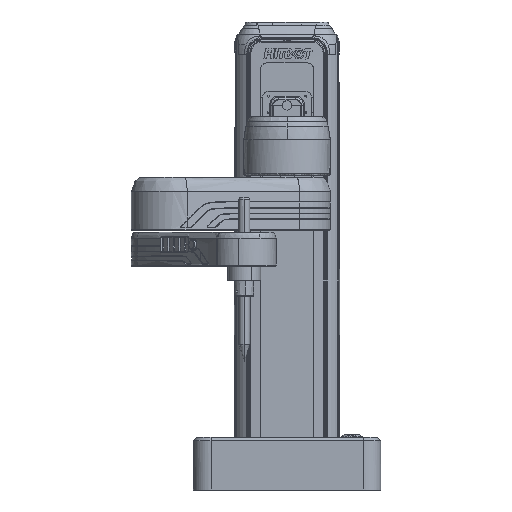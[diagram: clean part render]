
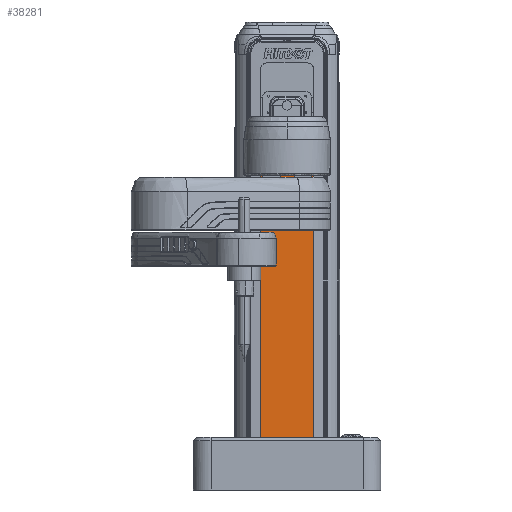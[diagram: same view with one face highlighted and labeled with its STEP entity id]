
A CAD part, left-side view. The second image highlights one B-rep face of the part: STEP entity #38281.
In plain terms, the highlighted free-form (B-spline) face has degree [1, 1] with [2, 2] control points.
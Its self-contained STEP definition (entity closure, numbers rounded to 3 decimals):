
#1864=B_SPLINE_SURFACE_WITH_KNOTS('',1,1,((#333567,#333568),(#333569,#333570)),
 .UNSPECIFIED.,.F.,.F.,.F.,(2,2),(2,2),(-5.018,55.018),(-26.118,
287.118),.UNSPECIFIED.);
#38281=ADVANCED_FACE('',(#41387),#1864,.T.);
#41387=FACE_OUTER_BOUND('',#44790,.T.);
#44790=EDGE_LOOP('',(#57188,#57189,#57190,#57191));
#57188=ORIENTED_EDGE('',*,*,#134262,.T.);
#57189=ORIENTED_EDGE('',*,*,#134263,.T.);
#57190=ORIENTED_EDGE('',*,*,#134264,.T.);
#57191=ORIENTED_EDGE('',*,*,#134265,.T.);
#81322=PCURVE('',#1864,#98996);
#81323=PCURVE('',#1864,#98997);
#81324=PCURVE('',#1864,#98998);
#81325=PCURVE('',#1864,#98999);
#98996=DEFINITIONAL_REPRESENTATION('',(#158504),#418405);
#98997=DEFINITIONAL_REPRESENTATION('',(#158506),#418405);
#98998=DEFINITIONAL_REPRESENTATION('',(#158508),#418405);
#98999=DEFINITIONAL_REPRESENTATION('',(#158510),#418405);
#116667=SURFACE_CURVE('',#158503,(#81322),.PCURVE_S1.);
#116668=SURFACE_CURVE('',#158505,(#81323),.PCURVE_S1.);
#116669=SURFACE_CURVE('',#158507,(#81324),.PCURVE_S1.);
#116670=SURFACE_CURVE('',#158509,(#81325),.PCURVE_S1.);
#134262=EDGE_CURVE('',#180668,#180670,#116667,.T.);
#134263=EDGE_CURVE('',#180670,#180671,#116668,.T.);
#134264=EDGE_CURVE('',#180671,#180669,#116669,.T.);
#134265=EDGE_CURVE('',#180669,#180668,#116670,.T.);
#158503=B_SPLINE_CURVE_WITH_KNOTS('',1,(#333575,#333576),.UNSPECIFIED.,
 .F.,.F.,(2,2),(-50.,0.),.UNSPECIFIED.);
#158504=B_SPLINE_CURVE_WITH_KNOTS('',1,(#333577,#333578),.UNSPECIFIED.,
 .F.,.F.,(2,2),(-50.,0.),.UNSPECIFIED.);
#158505=B_SPLINE_CURVE_WITH_KNOTS('',1,(#333579,#333580),.UNSPECIFIED.,
 .F.,.F.,(2,2),(-261.,0.),.UNSPECIFIED.);
#158506=B_SPLINE_CURVE_WITH_KNOTS('',1,(#333581,#333582),.UNSPECIFIED.,
 .F.,.F.,(2,2),(-261.,0.),.UNSPECIFIED.);
#158507=B_SPLINE_CURVE_WITH_KNOTS('',1,(#333583,#333584),.UNSPECIFIED.,
 .F.,.F.,(2,2),(0.,50.),.UNSPECIFIED.);
#158508=B_SPLINE_CURVE_WITH_KNOTS('',1,(#333585,#333586),.UNSPECIFIED.,
 .F.,.F.,(2,2),(0.,50.),.UNSPECIFIED.);
#158509=B_SPLINE_CURVE_WITH_KNOTS('',1,(#333587,#333588),.UNSPECIFIED.,
 .F.,.F.,(2,2),(0.,261.),.UNSPECIFIED.);
#158510=B_SPLINE_CURVE_WITH_KNOTS('',1,(#333589,#333590),.UNSPECIFIED.,
 .F.,.F.,(2,2),(0.,261.),.UNSPECIFIED.);
#180668=VERTEX_POINT('',#333571);
#180669=VERTEX_POINT('',#333572);
#180670=VERTEX_POINT('',#333573);
#180671=VERTEX_POINT('',#333574);
#333567=CARTESIAN_POINT('',(-5.018,4.,-23.658));
#333568=CARTESIAN_POINT('',(-5.018,4.,289.578));
#333569=CARTESIAN_POINT('',(55.018,4.,-23.658));
#333570=CARTESIAN_POINT('',(55.018,4.,289.578));
#333571=CARTESIAN_POINT('',(50.,4.,263.46));
#333572=CARTESIAN_POINT('',(50.,4.,2.46));
#333573=CARTESIAN_POINT('',(0.,4.,263.46));
#333574=CARTESIAN_POINT('',(0.,4.,2.46));
#333575=CARTESIAN_POINT('',(50.,4.,263.46));
#333576=CARTESIAN_POINT('',(0.,4.,263.46));
#333577=CARTESIAN_POINT('',(50.,261.));
#333578=CARTESIAN_POINT('',(0.,261.));
#333579=CARTESIAN_POINT('',(0.,4.,263.46));
#333580=CARTESIAN_POINT('',(0.,4.,2.46));
#333581=CARTESIAN_POINT('',(0.,261.));
#333582=CARTESIAN_POINT('',(0.,0.));
#333583=CARTESIAN_POINT('',(0.,4.,2.46));
#333584=CARTESIAN_POINT('',(50.,4.,2.46));
#333585=CARTESIAN_POINT('',(0.,0.));
#333586=CARTESIAN_POINT('',(50.,0.));
#333587=CARTESIAN_POINT('',(50.,4.,2.46));
#333588=CARTESIAN_POINT('',(50.,4.,263.46));
#333589=CARTESIAN_POINT('',(50.,0.));
#333590=CARTESIAN_POINT('',(50.,261.));
#418405=(
GEOMETRIC_REPRESENTATION_CONTEXT(2)
PARAMETRIC_REPRESENTATION_CONTEXT()
REPRESENTATION_CONTEXT('pspace','')
);
